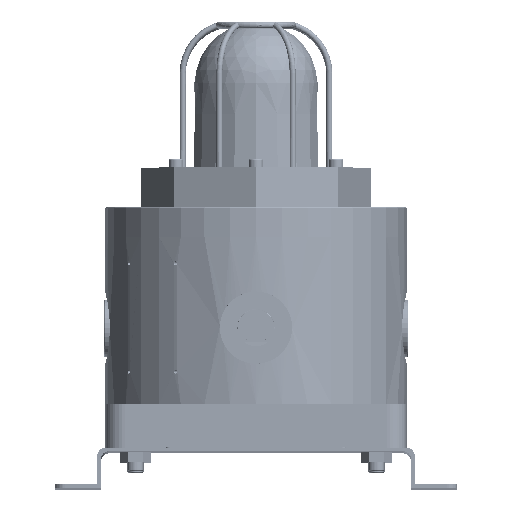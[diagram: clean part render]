
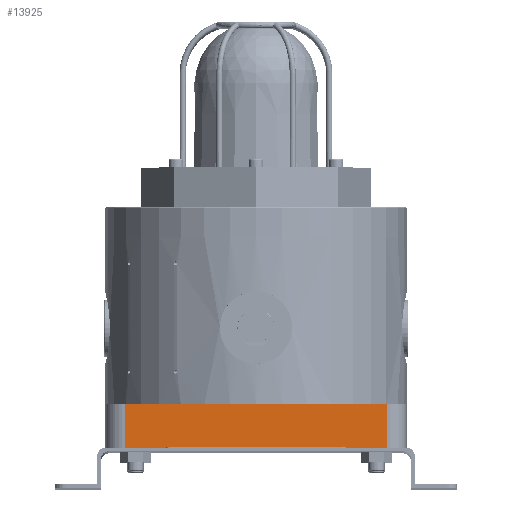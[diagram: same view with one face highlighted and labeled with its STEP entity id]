
A CAD part, top view. The second image highlights one B-rep face of the part: STEP entity #13925.
In plain terms, the highlighted planar face has unit normal (0, 0, 1).
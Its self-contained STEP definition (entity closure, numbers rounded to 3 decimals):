
#3987=DIRECTION('',(1.,0.,0.));
#3988=VECTOR('',#3987,130.);
#3989=CARTESIAN_POINT('',(-65.,0.,75.));
#3990=LINE('',#3989,#3988);
#4047=DIRECTION('',(0.,-1.,0.));
#4048=VECTOR('',#4047,22.);
#4049=CARTESIAN_POINT('',(65.,22.,75.));
#4050=LINE('',#4049,#4048);
#4074=DIRECTION('',(0.,-1.,0.));
#4075=VECTOR('',#4074,22.);
#4076=CARTESIAN_POINT('',(-65.,22.,75.));
#4077=LINE('',#4076,#4075);
#4129=DIRECTION('',(1.,0.,0.));
#4130=VECTOR('',#4129,65.);
#4131=CARTESIAN_POINT('',(0.,22.,75.));
#4132=LINE('',#4131,#4130);
#4164=DIRECTION('',(1.,0.,0.));
#4165=VECTOR('',#4164,65.);
#4166=CARTESIAN_POINT('',(-65.,22.,75.));
#4167=LINE('',#4166,#4165);
#11583=CARTESIAN_POINT('',(0.,22.,75.));
#11584=VERTEX_POINT('',#11583);
#11589=CARTESIAN_POINT('',(65.,22.,75.));
#11590=CARTESIAN_POINT('',(65.,0.,75.));
#11591=VERTEX_POINT('',#11589);
#11592=VERTEX_POINT('',#11590);
#11609=CARTESIAN_POINT('',(-65.,22.,75.));
#11610=VERTEX_POINT('',#11609);
#11611=CARTESIAN_POINT('',(-65.,0.,75.));
#11612=VERTEX_POINT('',#11611);
#13910=CARTESIAN_POINT('',(-75.,0.,75.));
#13911=DIRECTION('',(0.,0.,1.));
#13912=DIRECTION('',(1.,0.,0.));
#13913=AXIS2_PLACEMENT_3D('',#13910,#13911,#13912);
#13914=PLANE('',#13913);
#13915=ORIENTED_EDGE('',*,*,#13900,.T.);
#13916=ORIENTED_EDGE('',*,*,#13848,.F.);
#13918=ORIENTED_EDGE('',*,*,#13917,.F.);
#13920=ORIENTED_EDGE('',*,*,#13919,.T.);
#13922=ORIENTED_EDGE('',*,*,#13921,.T.);
#13923=EDGE_LOOP('',(#13915,#13916,#13918,#13920,#13922));
#13924=FACE_OUTER_BOUND('',#13923,.F.);
#13925=ADVANCED_FACE('',(#13924),#13914,.T.);
#13848=EDGE_CURVE('',#11612,#11592,#3990,.T.);
#13900=EDGE_CURVE('',#11591,#11592,#4050,.T.);
#13917=EDGE_CURVE('',#11610,#11612,#4077,.T.);
#13919=EDGE_CURVE('',#11610,#11584,#4167,.T.);
#13921=EDGE_CURVE('',#11584,#11591,#4132,.T.);
